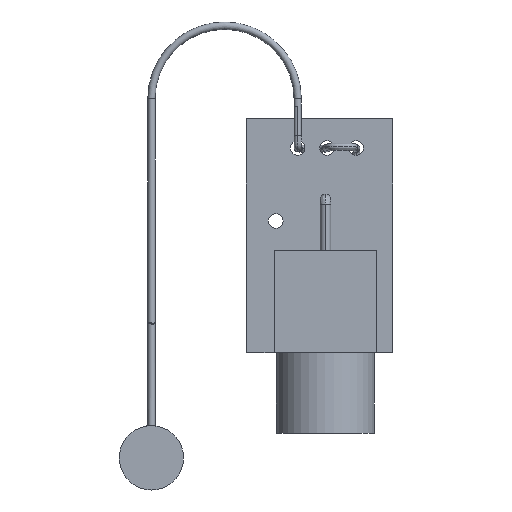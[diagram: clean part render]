
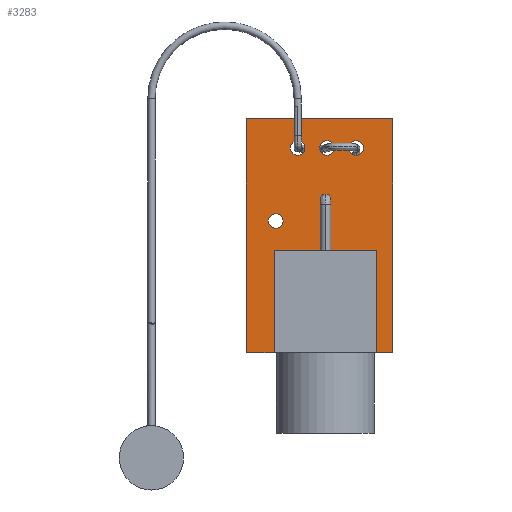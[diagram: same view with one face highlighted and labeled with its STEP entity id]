
A CAD part, front view. The second image highlights one B-rep face of the part: STEP entity #3283.
In plain terms, the highlighted planar face has unit normal (0, -1, 0).
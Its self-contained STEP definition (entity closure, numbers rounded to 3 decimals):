
#477=DIRECTION('',(1.,0.,0.));
#478=VECTOR('',#477,7.);
#479=CARTESIAN_POINT('',(-3.1,0.,-1.));
#480=LINE('',#479,#478);
#481=DIRECTION('',(0.,0.,1.));
#482=VECTOR('',#481,7.);
#483=CARTESIAN_POINT('',(-3.1,0.,-8.));
#484=LINE('',#483,#482);
#485=DIRECTION('',(-1.,0.,0.));
#486=VECTOR('',#485,1.9);
#487=CARTESIAN_POINT('',(-3.1,0.,-8.));
#488=LINE('',#487,#486);
#489=DIRECTION('',(0.,0.,1.));
#490=VECTOR('',#489,16.);
#491=CARTESIAN_POINT('',(-5.,0.,-8.));
#492=LINE('',#491,#490);
#493=DIRECTION('',(1.,0.,0.));
#494=VECTOR('',#493,10.);
#495=CARTESIAN_POINT('',(-5.,0.,8.));
#496=LINE('',#495,#494);
#497=DIRECTION('',(0.,0.,-1.));
#498=VECTOR('',#497,16.);
#499=CARTESIAN_POINT('',(5.,0.,8.));
#500=LINE('',#499,#498);
#501=DIRECTION('',(-1.,0.,0.));
#502=VECTOR('',#501,1.1);
#503=CARTESIAN_POINT('',(5.,0.,-8.));
#504=LINE('',#503,#502);
#505=DIRECTION('',(0.,0.,1.));
#506=VECTOR('',#505,7.);
#507=CARTESIAN_POINT('',(3.9,0.,-8.));
#508=LINE('',#507,#506);
#509=CARTESIAN_POINT('',(-1.5,0.,6.));
#510=DIRECTION('',(0.,-1.,0.));
#511=DIRECTION('',(1.,0.,0.));
#512=AXIS2_PLACEMENT_3D('',#509,#510,#511);
#514=CARTESIAN_POINT('',(-1.5,0.,6.));
#515=DIRECTION('',(0.,-1.,0.));
#516=DIRECTION('',(-1.,0.,0.));
#517=AXIS2_PLACEMENT_3D('',#514,#515,#516);
#519=CARTESIAN_POINT('',(0.5,0.,6.));
#520=DIRECTION('',(0.,-1.,0.));
#521=DIRECTION('',(1.,0.,0.));
#522=AXIS2_PLACEMENT_3D('',#519,#520,#521);
#524=CARTESIAN_POINT('',(0.5,0.,6.));
#525=DIRECTION('',(0.,-1.,0.));
#526=DIRECTION('',(-1.,0.,0.));
#527=AXIS2_PLACEMENT_3D('',#524,#525,#526);
#529=CARTESIAN_POINT('',(2.5,0.,6.));
#530=DIRECTION('',(0.,-1.,0.));
#531=DIRECTION('',(1.,0.,0.));
#532=AXIS2_PLACEMENT_3D('',#529,#530,#531);
#534=CARTESIAN_POINT('',(2.5,0.,6.));
#535=DIRECTION('',(0.,-1.,0.));
#536=DIRECTION('',(-1.,0.,0.));
#537=AXIS2_PLACEMENT_3D('',#534,#535,#536);
#539=CARTESIAN_POINT('',(-3.,0.,1.));
#540=DIRECTION('',(0.,-1.,0.));
#541=DIRECTION('',(1.,0.,0.));
#542=AXIS2_PLACEMENT_3D('',#539,#540,#541);
#544=CARTESIAN_POINT('',(-3.,0.,1.));
#545=DIRECTION('',(0.,-1.,0.));
#546=DIRECTION('',(-1.,0.,0.));
#547=AXIS2_PLACEMENT_3D('',#544,#545,#546);
#549=CARTESIAN_POINT('',(0.4,0.,2.5));
#550=DIRECTION('',(0.,1.,0.));
#551=DIRECTION('',(0.,0.,-1.));
#552=AXIS2_PLACEMENT_3D('',#549,#550,#551);
#554=CARTESIAN_POINT('',(0.4,0.,2.5));
#555=DIRECTION('',(0.,1.,0.));
#556=DIRECTION('',(0.,0.,1.));
#557=AXIS2_PLACEMENT_3D('',#554,#555,#556);
#559=CARTESIAN_POINT('',(0.4,0.,0.5));
#560=DIRECTION('',(0.,1.,0.));
#561=DIRECTION('',(0.,0.,-1.));
#562=AXIS2_PLACEMENT_3D('',#559,#560,#561);
#564=CARTESIAN_POINT('',(0.4,0.,0.5));
#565=DIRECTION('',(0.,1.,0.));
#566=DIRECTION('',(0.,0.,1.));
#567=AXIS2_PLACEMENT_3D('',#564,#565,#566);
#2032=CARTESIAN_POINT('',(-5.,0.,-8.));
#2033=CARTESIAN_POINT('',(-5.,0.,8.));
#2034=VERTEX_POINT('',#2032);
#2035=VERTEX_POINT('',#2033);
#2036=CARTESIAN_POINT('',(5.,0.,8.));
#2037=VERTEX_POINT('',#2036);
#2038=CARTESIAN_POINT('',(5.,0.,-8.));
#2039=VERTEX_POINT('',#2038);
#2072=CARTESIAN_POINT('',(-1.,0.,6.));
#2073=CARTESIAN_POINT('',(-2.,0.,6.));
#2074=VERTEX_POINT('',#2072);
#2075=VERTEX_POINT('',#2073);
#2076=CARTESIAN_POINT('',(1.,0.,6.));
#2077=CARTESIAN_POINT('',(0.,0.,6.));
#2078=VERTEX_POINT('',#2076);
#2079=VERTEX_POINT('',#2077);
#2080=CARTESIAN_POINT('',(3.,0.,6.));
#2081=CARTESIAN_POINT('',(2.,0.,6.));
#2082=VERTEX_POINT('',#2080);
#2083=VERTEX_POINT('',#2081);
#2084=CARTESIAN_POINT('',(-2.5,0.,1.));
#2085=CARTESIAN_POINT('',(-3.5,0.,1.));
#2086=VERTEX_POINT('',#2084);
#2087=VERTEX_POINT('',#2085);
#2367=CARTESIAN_POINT('',(-3.1,0.,-1.));
#2368=CARTESIAN_POINT('',(3.9,0.,-1.));
#2369=VERTEX_POINT('',#2367);
#2370=VERTEX_POINT('',#2368);
#2371=CARTESIAN_POINT('',(-3.1,0.,-8.));
#2372=VERTEX_POINT('',#2371);
#2373=CARTESIAN_POINT('',(3.9,0.,-8.));
#2374=VERTEX_POINT('',#2373);
#2375=CARTESIAN_POINT('',(0.4,0.,2.15));
#2376=CARTESIAN_POINT('',(0.4,0.,2.85));
#2377=VERTEX_POINT('',#2375);
#2378=VERTEX_POINT('',#2376);
#2379=CARTESIAN_POINT('',(0.4,0.,0.15));
#2380=CARTESIAN_POINT('',(0.4,0.,0.85));
#2381=VERTEX_POINT('',#2379);
#2382=VERTEX_POINT('',#2380);
#3225=CARTESIAN_POINT('',(0.,0.,0.));
#3226=DIRECTION('',(0.,1.,0.));
#3227=DIRECTION('',(1.,0.,0.));
#3228=AXIS2_PLACEMENT_3D('',#3225,#3226,#3227);
#3229=PLANE('',#3228);
#3231=ORIENTED_EDGE('',*,*,#3230,.F.);
#3233=ORIENTED_EDGE('',*,*,#3232,.F.);
#3235=ORIENTED_EDGE('',*,*,#3234,.T.);
#3236=ORIENTED_EDGE('',*,*,#3208,.T.);
#3238=ORIENTED_EDGE('',*,*,#3237,.T.);
#3240=ORIENTED_EDGE('',*,*,#3239,.T.);
#3242=ORIENTED_EDGE('',*,*,#3241,.T.);
#3244=ORIENTED_EDGE('',*,*,#3243,.T.);
#3245=EDGE_LOOP('',(#3231,#3233,#3235,#3236,#3238,#3240,#3242,#3244));
#3246=FACE_OUTER_BOUND('',#3245,.F.);
#3248=ORIENTED_EDGE('',*,*,#3247,.T.);
#3250=ORIENTED_EDGE('',*,*,#3249,.T.);
#3251=EDGE_LOOP('',(#3248,#3250));
#3252=FACE_BOUND('',#3251,.F.);
#3254=ORIENTED_EDGE('',*,*,#3253,.T.);
#3256=ORIENTED_EDGE('',*,*,#3255,.T.);
#3257=EDGE_LOOP('',(#3254,#3256));
#3258=FACE_BOUND('',#3257,.F.);
#3260=ORIENTED_EDGE('',*,*,#3259,.T.);
#3262=ORIENTED_EDGE('',*,*,#3261,.T.);
#3263=EDGE_LOOP('',(#3260,#3262));
#3264=FACE_BOUND('',#3263,.F.);
#3266=ORIENTED_EDGE('',*,*,#3265,.T.);
#3268=ORIENTED_EDGE('',*,*,#3267,.T.);
#3269=EDGE_LOOP('',(#3266,#3268));
#3270=FACE_BOUND('',#3269,.F.);
#3272=ORIENTED_EDGE('',*,*,#3271,.F.);
#3274=ORIENTED_EDGE('',*,*,#3273,.F.);
#3275=EDGE_LOOP('',(#3272,#3274));
#3276=FACE_BOUND('',#3275,.F.);
#3278=ORIENTED_EDGE('',*,*,#3277,.F.);
#3280=ORIENTED_EDGE('',*,*,#3279,.F.);
#3281=EDGE_LOOP('',(#3278,#3280));
#3282=FACE_BOUND('',#3281,.F.);
#513=CIRCLE('',#512,0.5);
#518=CIRCLE('',#517,0.5);
#523=CIRCLE('',#522,0.5);
#528=CIRCLE('',#527,0.5);
#533=CIRCLE('',#532,0.5);
#538=CIRCLE('',#537,0.5);
#543=CIRCLE('',#542,0.5);
#548=CIRCLE('',#547,0.5);
#553=CIRCLE('',#552,0.35);
#558=CIRCLE('',#557,0.35);
#563=CIRCLE('',#562,0.35);
#568=CIRCLE('',#567,0.35);
#3208=EDGE_CURVE('',#2034,#2035,#492,.T.);
#3230=EDGE_CURVE('',#2369,#2370,#480,.T.);
#3232=EDGE_CURVE('',#2372,#2369,#484,.T.);
#3234=EDGE_CURVE('',#2372,#2034,#488,.T.);
#3237=EDGE_CURVE('',#2035,#2037,#496,.T.);
#3239=EDGE_CURVE('',#2037,#2039,#500,.T.);
#3241=EDGE_CURVE('',#2039,#2374,#504,.T.);
#3243=EDGE_CURVE('',#2374,#2370,#508,.T.);
#3247=EDGE_CURVE('',#2074,#2075,#513,.T.);
#3249=EDGE_CURVE('',#2075,#2074,#518,.T.);
#3253=EDGE_CURVE('',#2078,#2079,#523,.T.);
#3255=EDGE_CURVE('',#2079,#2078,#528,.T.);
#3259=EDGE_CURVE('',#2082,#2083,#533,.T.);
#3261=EDGE_CURVE('',#2083,#2082,#538,.T.);
#3265=EDGE_CURVE('',#2086,#2087,#543,.T.);
#3267=EDGE_CURVE('',#2087,#2086,#548,.T.);
#3271=EDGE_CURVE('',#2377,#2378,#553,.T.);
#3273=EDGE_CURVE('',#2378,#2377,#558,.T.);
#3277=EDGE_CURVE('',#2381,#2382,#563,.T.);
#3279=EDGE_CURVE('',#2382,#2381,#568,.T.);
#3283=ADVANCED_FACE('',(#3246,#3252,#3258,#3264,#3270,#3276,#3282),#3229,.F.);
